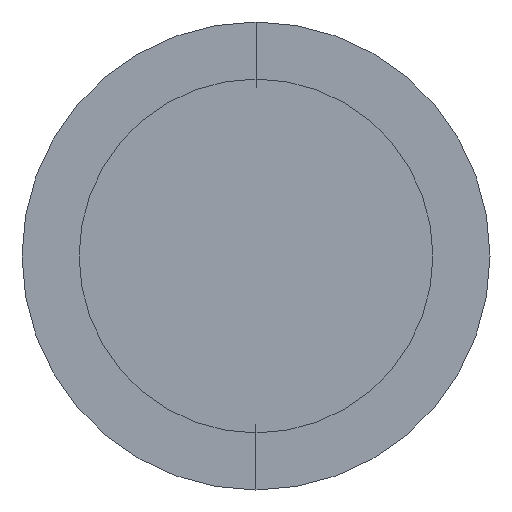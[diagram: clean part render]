
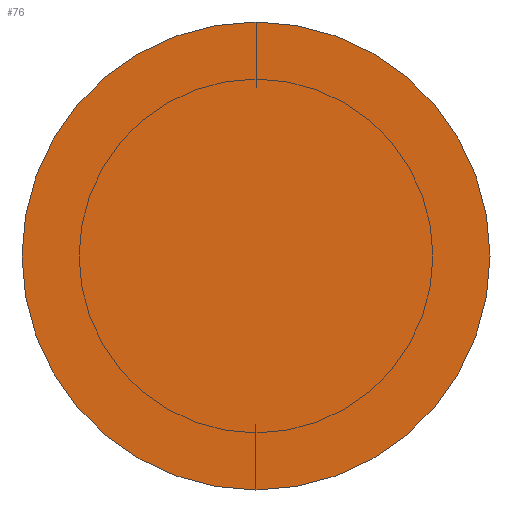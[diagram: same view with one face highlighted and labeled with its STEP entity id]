
A CAD part, left-side view. The second image highlights one B-rep face of the part: STEP entity #76.
In plain terms, the highlighted planar face has unit normal (-1, 0, 0).
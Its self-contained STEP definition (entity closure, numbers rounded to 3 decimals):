
#18 = VERTEX_POINT ( 'NONE', #151 ) ;
#23 = DIRECTION ( 'NONE',  ( -1., 0., 0. ) ) ;
#36 = DIRECTION ( 'NONE',  ( 1., 0., 0. ) ) ;
#58 = AXIS2_PLACEMENT_3D ( 'NONE', #205, #207, #209 ) ;
#64 = EDGE_CURVE ( 'NONE', #239, #18, #288, .T. ) ;
#69 = DIRECTION ( 'NONE',  ( 0., 0., 1. ) ) ;
#76 = ADVANCED_FACE ( 'NONE', ( #263 ), #262, .F. ) ;
#100 = EDGE_LOOP ( 'NONE', ( #184, #169 ) ) ;
#140 = CIRCLE ( 'NONE', #58, 1.5 ) ;
#151 = CARTESIAN_POINT ( 'NONE',  ( 0., 0., -1.5 ) ) ;
#169 = ORIENTED_EDGE ( 'NONE', *, *, #268, .T. ) ;
#170 = AXIS2_PLACEMENT_3D ( 'NONE', #236, #36, #246 ) ;
#183 = CARTESIAN_POINT ( 'NONE',  ( 0., 0., 1.5 ) ) ;
#184 = ORIENTED_EDGE ( 'NONE', *, *, #64, .T. ) ;
#187 = AXIS2_PLACEMENT_3D ( 'NONE', #238, #23, #69 ) ;
#205 = CARTESIAN_POINT ( 'NONE',  ( 0., 0., 0. ) ) ;
#207 = DIRECTION ( 'NONE',  ( -1., 0., 0. ) ) ;
#209 = DIRECTION ( 'NONE',  ( 0., 0., 1. ) ) ;
#236 = CARTESIAN_POINT ( 'NONE',  ( 0., 0., 0. ) ) ;
#238 = CARTESIAN_POINT ( 'NONE',  ( 0., 0., 0. ) ) ;
#239 = VERTEX_POINT ( 'NONE', #183 ) ;
#246 = DIRECTION ( 'NONE',  ( 0., 0., -1. ) ) ;
#262 = PLANE ( 'NONE',  #170 ) ;
#263 = FACE_OUTER_BOUND ( 'NONE', #100, .T. ) ;
#268 = EDGE_CURVE ( 'NONE', #18, #239, #140, .T. ) ;
#288 = CIRCLE ( 'NONE', #187, 1.5 ) ;
